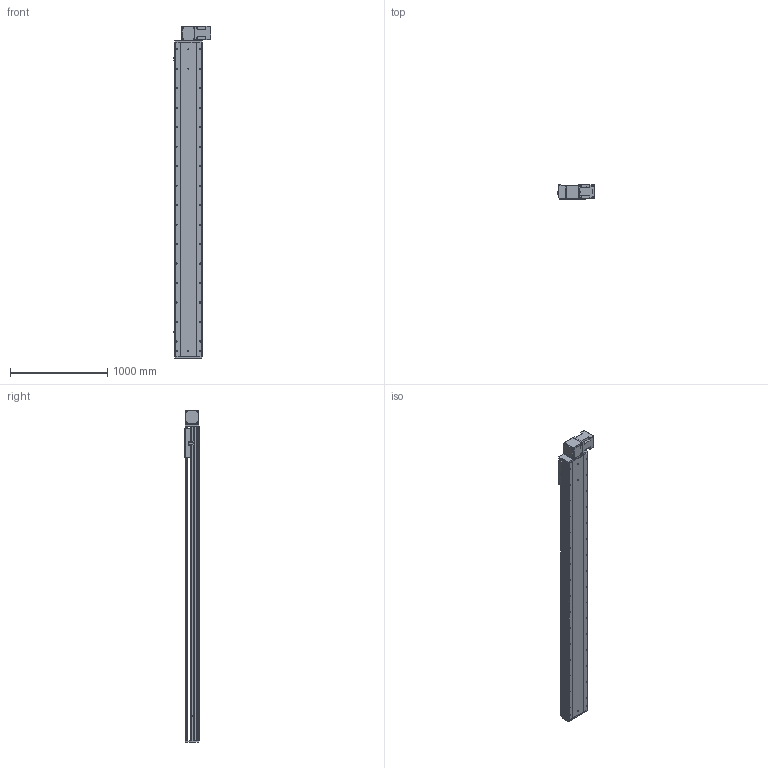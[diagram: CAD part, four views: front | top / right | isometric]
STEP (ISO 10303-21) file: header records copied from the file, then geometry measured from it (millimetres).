
FILE_DESCRIPTION (( 'STEP AP214' ), '1' );
FILE_NAME ('RTB28S-XX-2800-BL-M100-XX-C4.STEP', '2025-12-22T02:35:29', ( '' ), ( '' ), 'SwSTEP 2.0', 'SolidWorks 2018', '' );
FILE_SCHEMA (( 'AUTOMOTIVE_DESIGN' ));
Length unit declared in the file: millimetre
Products named in the file (4): RTB28S-XX-2800-BL-M100-XX-C4; RTB28S-GY-008^RTB28S-XX-XX-BL-M100-XX-C4; RTB28S-GY-004^RTB28S-XX-XX-BL-M100-XX-C4; RTB28S-GY-011^RTB28S-XX-XX-BL-M100-XX-C4
Assembly tree (3 placements, depth 2):
  RTB28S-XX-2800-BL-M100-XX-C4
    RTB28S-GY-011^RTB28S-XX-XX-BL-M100-XX-C4
    RTB28S-GY-004^RTB28S-XX-XX-BL-M100-XX-C4
    RTB28S-GY-008^RTB28S-XX-XX-BL-M100-XX-C4
Bounding box: 380.7 x 145 x 3407 mm (x, y, z)
Volume: 57958366.4 mm3; surface area: 5419923.9 mm2
Topology: 3 solids, 4 shells, 878 faces, 2358 edges, 1508 vertices
Faces by surface type: cylinder 431, plane 363, cone 80, torus 4
Entity records: 33887 total; most frequent: CARTESIAN_POINT 6352, DIRECTION 5016, ORIENTED_EDGE 4652, EDGE_CURVE 2326, AXIS2_PLACEMENT_3D 1848, VERTEX_POINT 1508, LINE 1320, VECTOR 1320
